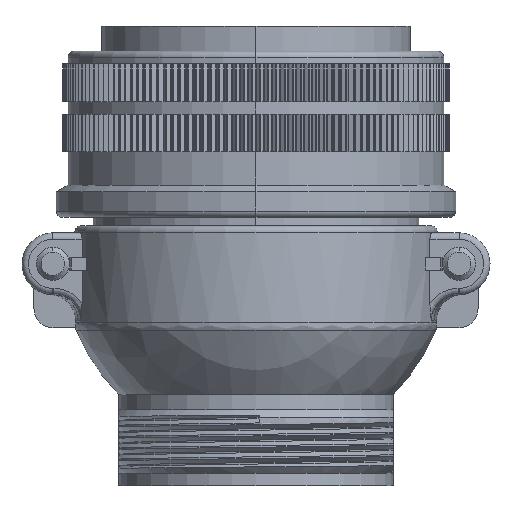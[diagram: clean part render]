
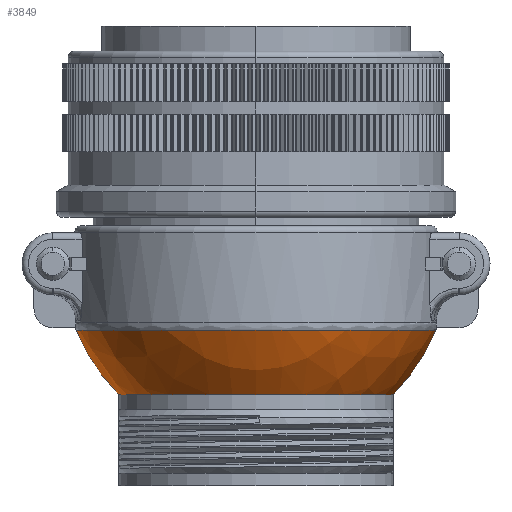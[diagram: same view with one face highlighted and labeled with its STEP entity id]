
A CAD part, left-side view. The second image highlights one B-rep face of the part: STEP entity #3849.
In plain terms, the highlighted spherical face has radius 24.25 mm.
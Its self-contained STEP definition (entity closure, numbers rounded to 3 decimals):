
#1320 = AXIS2_PLACEMENT_3D ( 'NONE', #111149, #58806, #6317 ) ;
#3772 = VERTEX_POINT ( 'NONE', #67209 ) ;
#3849 = ADVANCED_FACE ( 'NONE', ( #86190 ), #21720, .T. ) ;
#6317 = DIRECTION ( 'NONE',  ( 0., -1., 0. ) ) ;
#7367 = DIRECTION ( 'NONE',  ( 1., 0., 0. ) ) ;
#8602 = DIRECTION ( 'NONE',  ( 0., 0., 1. ) ) ;
#15665 = DIRECTION ( 'NONE',  ( 0., 0., 1. ) ) ;
#21720 = SPHERICAL_SURFACE ( 'NONE', #77430, 24.25 ) ;
#24140 = VERTEX_POINT ( 'NONE', #54557 ) ;
#28561 = CIRCLE ( 'NONE', #96686, 17.15 ) ;
#33313 = AXIS2_PLACEMENT_3D ( 'NONE', #68076, #15665, #76911 ) ;
#42833 = EDGE_CURVE ( 'NONE', #24140, #3772, #84254, .T. ) ;
#47273 = EDGE_LOOP ( 'NONE', ( #75328, #65169, #109022, #63385 ) ) ;
#49241 = CARTESIAN_POINT ( 'NONE',  ( 0., 17.15, -46.085 ) ) ;
#54557 = CARTESIAN_POINT ( 'NONE',  ( 0., 22.488, -38.014 ) ) ;
#56682 = CIRCLE ( 'NONE', #61495, 24.25 ) ;
#57197 = EDGE_CURVE ( 'NONE', #60478, #24140, #56682, .T. ) ;
#58806 = DIRECTION ( 'NONE',  ( -1., 0., 0. ) ) ;
#59388 = VERTEX_POINT ( 'NONE', #75090 ) ;
#59869 = CARTESIAN_POINT ( 'NONE',  ( 0., 0., -28.94 ) ) ;
#60478 = VERTEX_POINT ( 'NONE', #49241 ) ;
#61098 = CARTESIAN_POINT ( 'NONE',  ( 0., 0., -46.085 ) ) ;
#61495 = AXIS2_PLACEMENT_3D ( 'NONE', #59869, #7367, #68600 ) ;
#63385 = ORIENTED_EDGE ( 'NONE', *, *, #57197, .F. ) ;
#64365 = CIRCLE ( 'NONE', #1320, 24.25 ) ;
#65169 = ORIENTED_EDGE ( 'NONE', *, *, #110270, .T. ) ;
#67209 = CARTESIAN_POINT ( 'NONE',  ( 0., -22.488, -38.014 ) ) ;
#68076 = CARTESIAN_POINT ( 'NONE',  ( 0., 0., -38.014 ) ) ;
#68600 = DIRECTION ( 'NONE',  ( 0., 1., 0. ) ) ;
#69844 = DIRECTION ( 'NONE',  ( 0., 1., 0. ) ) ;
#75090 = CARTESIAN_POINT ( 'NONE',  ( 0., -17.15, -46.085 ) ) ;
#75328 = ORIENTED_EDGE ( 'NONE', *, *, #111295, .T. ) ;
#76911 = DIRECTION ( 'NONE',  ( 0., 1., 0. ) ) ;
#77430 = AXIS2_PLACEMENT_3D ( 'NONE', #111937, #103176, #85640 ) ;
#84254 = CIRCLE ( 'NONE', #33313, 22.488 ) ;
#85640 = DIRECTION ( 'NONE',  ( 0., 1., 0. ) ) ;
#86190 = FACE_OUTER_BOUND ( 'NONE', #47273, .T. ) ;
#96686 = AXIS2_PLACEMENT_3D ( 'NONE', #61098, #8602, #69844 ) ;
#103176 = DIRECTION ( 'NONE',  ( -1., 0., 0. ) ) ;
#109022 = ORIENTED_EDGE ( 'NONE', *, *, #42833, .F. ) ;
#110270 = EDGE_CURVE ( 'NONE', #59388, #3772, #64365, .T. ) ;
#111149 = CARTESIAN_POINT ( 'NONE',  ( 0., 0., -28.94 ) ) ;
#111295 = EDGE_CURVE ( 'NONE', #60478, #59388, #28561, .T. ) ;
#111937 = CARTESIAN_POINT ( 'NONE',  ( 0., 0., -28.94 ) ) ;
